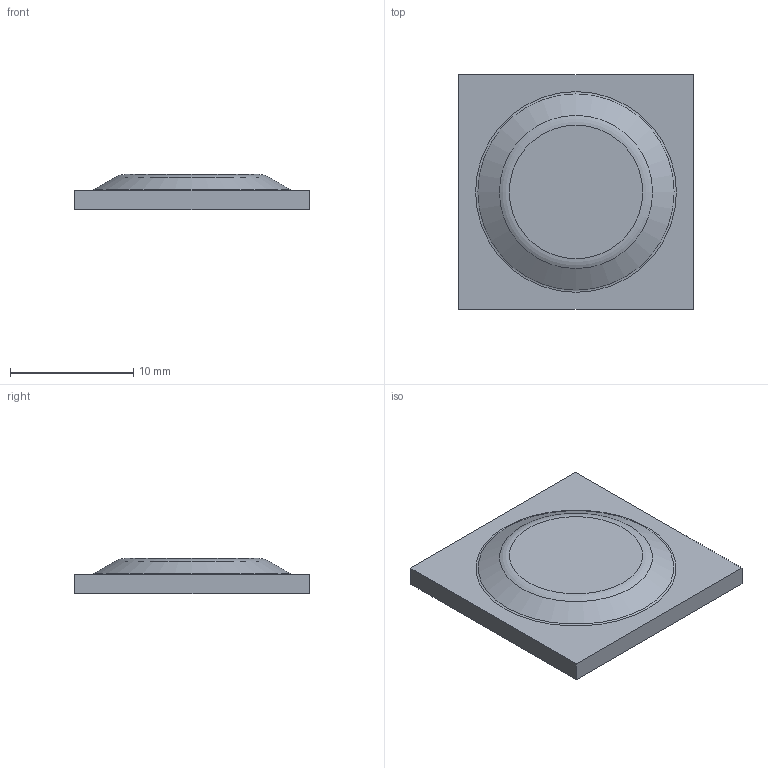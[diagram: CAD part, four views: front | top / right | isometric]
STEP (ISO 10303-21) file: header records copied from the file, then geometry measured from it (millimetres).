
FILE_DESCRIPTION((''),'1');
FILE_NAME('C:/Users/ericfrey.TRIAX/Documents/Desktop/DIMPLE FOR 407-5839-00 REV 01.stp', '2014-03-26T19:41:02',(''), (''), 'KCM Version 1.1.967.0', 'Kubotek KeyCreator', '');
FILE_SCHEMA(('AUTOMOTIVE_DESIGN'));
Length unit declared in the file: inch
Bounding box: 19.05 x 19.05 x 2.84 mm (x, y, z)
Volume: 592.6 mm3; surface area: 872.3 mm2
Topology: 1 solids, 1 shells, 14 faces, 32 edges, 22 vertices
Faces by surface type: plane 8, torus 4, cone 2
Entity records: 405 total; most frequent: DIRECTION 68, ORIENTED_EDGE 64, CARTESIAN_POINT 63, EDGE_CURVE 32, AXIS2_PLACEMENT_3D 27, VERTEX_POINT 22, EDGE_LOOP 16, FACE_OUTER_BOUND 14
